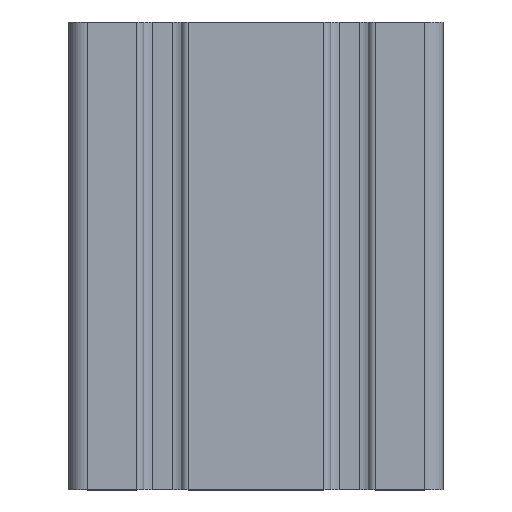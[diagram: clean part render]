
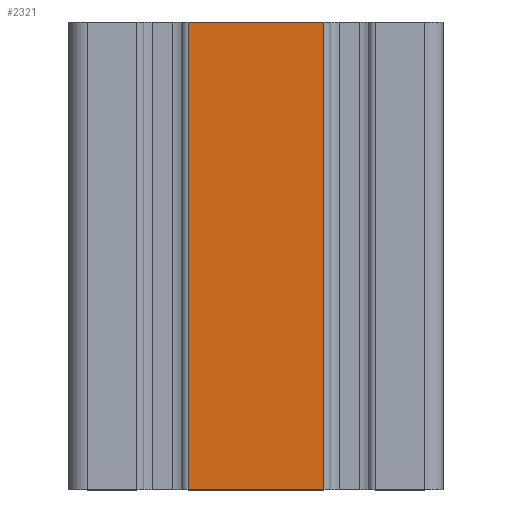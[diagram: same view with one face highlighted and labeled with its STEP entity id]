
A CAD part, top view. The second image highlights one B-rep face of the part: STEP entity #2321.
In plain terms, the highlighted planar face has unit normal (0, 0, 1).
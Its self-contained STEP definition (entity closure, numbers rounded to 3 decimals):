
#149 = CARTESIAN_POINT ( 'NONE',  ( -14.5, 50., 20. ) ) ;
#221 = EDGE_CURVE ( 'NONE', #2963, #3849, #3967, .T. ) ;
#240 = FACE_OUTER_BOUND ( 'NONE', #3310, .T. ) ;
#318 = CARTESIAN_POINT ( 'NONE',  ( 14.5, 50., 20. ) ) ;
#432 = CARTESIAN_POINT ( 'NONE',  ( -14.5, 50., 20. ) ) ;
#487 = EDGE_CURVE ( 'NONE', #918, #2963, #3457, .T. ) ;
#605 = CARTESIAN_POINT ( 'NONE',  ( -14.5, -50., 20. ) ) ;
#683 = DIRECTION ( 'NONE',  ( 1., 0., 0. ) ) ;
#764 = CARTESIAN_POINT ( 'NONE',  ( 14.5, -50., 20. ) ) ;
#918 = VERTEX_POINT ( 'NONE', #2804 ) ;
#923 = DIRECTION ( 'NONE',  ( 0., 0., -1. ) ) ;
#978 = DIRECTION ( 'NONE',  ( 1., 0., 0. ) ) ;
#1047 = VECTOR ( 'NONE', #683, 1000. ) ;
#1173 = AXIS2_PLACEMENT_3D ( 'NONE', #149, #923, #1559 ) ;
#1559 = DIRECTION ( 'NONE',  ( -1., 0., 0. ) ) ;
#1580 = PLANE ( 'NONE',  #1173 ) ;
#1664 = LINE ( 'NONE', #318, #2020 ) ;
#1683 = CARTESIAN_POINT ( 'NONE',  ( -14.5, -50., 20. ) ) ;
#1724 = EDGE_CURVE ( 'NONE', #918, #2433, #3422, .T. ) ;
#2020 = VECTOR ( 'NONE', #2926, 1000. ) ;
#2169 = VECTOR ( 'NONE', #978, 1000. ) ;
#2225 = ORIENTED_EDGE ( 'NONE', *, *, #487, .T. ) ;
#2321 = ADVANCED_FACE ( 'NONE', ( #240 ), #1580, .F. ) ;
#2433 = VERTEX_POINT ( 'NONE', #4015 ) ;
#2721 = VECTOR ( 'NONE', #3198, 1000. ) ;
#2804 = CARTESIAN_POINT ( 'NONE',  ( -14.5, 50., 20. ) ) ;
#2861 = ORIENTED_EDGE ( 'NONE', *, *, #2900, .F. ) ;
#2900 = EDGE_CURVE ( 'NONE', #2433, #3849, #1664, .T. ) ;
#2923 = ORIENTED_EDGE ( 'NONE', *, *, #1724, .F. ) ;
#2926 = DIRECTION ( 'NONE',  ( 0., -1., 0. ) ) ;
#2963 = VERTEX_POINT ( 'NONE', #1683 ) ;
#3132 = CARTESIAN_POINT ( 'NONE',  ( -14.5, 50., 20. ) ) ;
#3198 = DIRECTION ( 'NONE',  ( 0., -1., 0. ) ) ;
#3216 = ORIENTED_EDGE ( 'NONE', *, *, #221, .T. ) ;
#3310 = EDGE_LOOP ( 'NONE', ( #3216, #2861, #2923, #2225 ) ) ;
#3422 = LINE ( 'NONE', #432, #1047 ) ;
#3457 = LINE ( 'NONE', #3132, #2721 ) ;
#3849 = VERTEX_POINT ( 'NONE', #764 ) ;
#3967 = LINE ( 'NONE', #605, #2169 ) ;
#4015 = CARTESIAN_POINT ( 'NONE',  ( 14.5, 50., 20. ) ) ;
